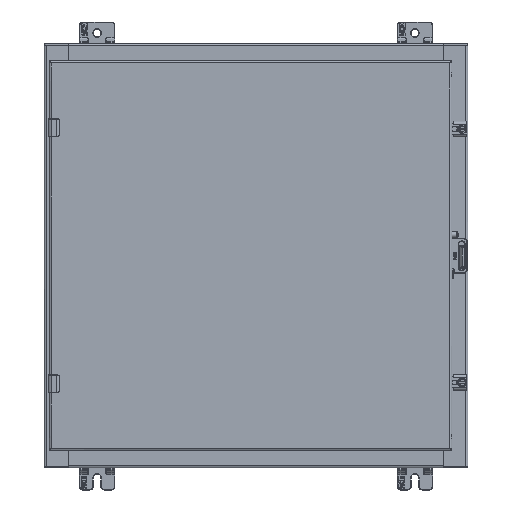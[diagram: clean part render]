
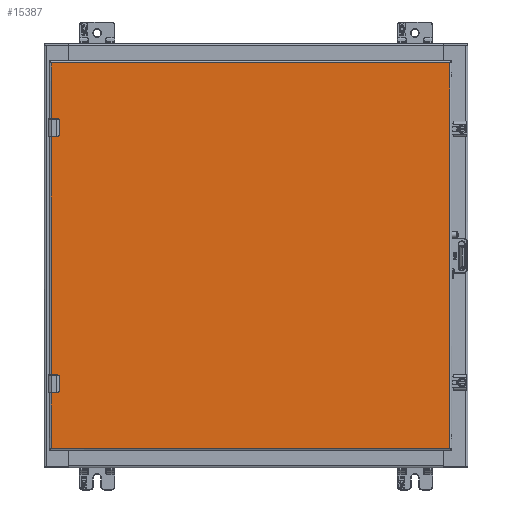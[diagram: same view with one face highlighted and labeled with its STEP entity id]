
A CAD part, top view. The second image highlights one B-rep face of the part: STEP entity #15387.
In plain terms, the highlighted planar face has unit normal (0, 0, 1) as drawn and (0, 1, 0) by its records, which use the part's own axes.
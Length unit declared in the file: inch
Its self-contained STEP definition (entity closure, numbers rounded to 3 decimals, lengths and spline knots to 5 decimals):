
#11832=DIRECTION('',(0.,0.,1.));
#11833=VECTOR('',#11832,22.566);
#11834=CARTESIAN_POINT('',(-10.91438,0.,0.117));
#11835=LINE('',#11834,#11833);
#11920=DIRECTION('',(0.,0.,-1.));
#11921=VECTOR('',#11920,0.3629);
#11922=CARTESIAN_POINT('',(7.59513,0.,22.683));
#11923=LINE('',#11922,#11921);
#11927=DIRECTION('',(-1.,0.,0.));
#11928=VECTOR('',#11927,0.63);
#11929=CARTESIAN_POINT('',(7.56513,0.,22.2901));
#11930=LINE('',#11929,#11928);
#11934=DIRECTION('',(0.,0.,-1.));
#11935=VECTOR('',#11934,0.3629);
#11936=CARTESIAN_POINT('',(6.90513,0.,22.683));
#11937=LINE('',#11936,#11935);
#11941=DIRECTION('',(0.,0.,-1.));
#11942=VECTOR('',#11941,0.3629);
#11943=CARTESIAN_POINT('',(-6.90513,0.,22.683));
#11944=LINE('',#11943,#11942);
#11948=DIRECTION('',(-1.,0.,0.));
#11949=VECTOR('',#11948,0.63);
#11950=CARTESIAN_POINT('',(-6.93513,0.,22.2901));
#11951=LINE('',#11950,#11949);
#11955=DIRECTION('',(0.,0.,-1.));
#11956=VECTOR('',#11955,0.3629);
#11957=CARTESIAN_POINT('',(-7.59513,0.,22.683));
#11958=LINE('',#11957,#11956);
#11962=DIRECTION('',(0.,0.,1.));
#11963=VECTOR('',#11962,22.566);
#11964=CARTESIAN_POINT('',(10.91438,0.,0.117));
#11965=LINE('',#11964,#11963);
#12151=DIRECTION('',(-1.,0.,0.));
#12152=VECTOR('',#12151,21.82875);
#12153=CARTESIAN_POINT('',(10.91438,0.,0.117));
#12154=LINE('',#12153,#12152);
#13006=CARTESIAN_POINT('',(6.93513,0.,22.3201));
#13007=DIRECTION('',(0.,-1.,0.));
#13008=DIRECTION('',(-1.,0.,0.));
#13009=AXIS2_PLACEMENT_3D('',#13006,#13007,#13008);
#13036=CARTESIAN_POINT('',(7.56513,0.,22.3201));
#13037=DIRECTION('',(0.,-1.,0.));
#13038=DIRECTION('',(0.,0.,-1.));
#13039=AXIS2_PLACEMENT_3D('',#13036,#13037,#13038);
#13445=DIRECTION('',(-1.,0.,0.));
#13446=VECTOR('',#13445,13.81025);
#13447=CARTESIAN_POINT('',(6.90513,0.,22.683));
#13448=LINE('',#13447,#13446);
#13492=DIRECTION('',(-1.,0.,0.));
#13493=VECTOR('',#13492,3.31925);
#13494=CARTESIAN_POINT('',(-7.59513,0.,22.683));
#13495=LINE('',#13494,#13493);
#13529=DIRECTION('',(-1.,0.,0.));
#13530=VECTOR('',#13529,3.31925);
#13531=CARTESIAN_POINT('',(10.91438,0.,22.683));
#13532=LINE('',#13531,#13530);
#13610=CARTESIAN_POINT('',(-7.56513,0.,22.3201));
#13611=DIRECTION('',(0.,-1.,0.));
#13612=DIRECTION('',(-1.,0.,0.));
#13613=AXIS2_PLACEMENT_3D('',#13610,#13611,#13612);
#13640=CARTESIAN_POINT('',(-6.93513,0.,22.3201));
#13641=DIRECTION('',(0.,-1.,0.));
#13642=DIRECTION('',(0.,0.,-1.));
#13643=AXIS2_PLACEMENT_3D('',#13640,#13641,#13642);
#14482=CARTESIAN_POINT('',(10.91438,0.,0.117));
#14483=CARTESIAN_POINT('',(-10.91438,0.,0.117));
#14484=VERTEX_POINT('',#14482);
#14485=VERTEX_POINT('',#14483);
#14692=CARTESIAN_POINT('',(-10.91438,0.,22.683));
#14693=VERTEX_POINT('',#14692);
#14702=CARTESIAN_POINT('',(10.91438,0.,22.683));
#14704=VERTEX_POINT('',#14702);
#14799=CARTESIAN_POINT('',(-6.90513,0.,22.683));
#14801=VERTEX_POINT('',#14799);
#14803=CARTESIAN_POINT('',(-7.59513,0.,22.683));
#14805=VERTEX_POINT('',#14803);
#14815=CARTESIAN_POINT('',(7.59513,0.,22.683));
#14817=VERTEX_POINT('',#14815);
#14819=CARTESIAN_POINT('',(6.90513,0.,22.683));
#14821=VERTEX_POINT('',#14819);
#14830=CARTESIAN_POINT('',(-7.59513,0.,22.3201));
#14832=VERTEX_POINT('',#14830);
#14834=CARTESIAN_POINT('',(-7.56513,0.,22.2901));
#14836=VERTEX_POINT('',#14834);
#14854=CARTESIAN_POINT('',(-6.93513,0.,22.2901));
#14856=VERTEX_POINT('',#14854);
#14858=CARTESIAN_POINT('',(-6.90513,0.,22.3201));
#14860=VERTEX_POINT('',#14858);
#14862=CARTESIAN_POINT('',(6.90513,0.,22.3201));
#14864=VERTEX_POINT('',#14862);
#14866=CARTESIAN_POINT('',(6.93513,0.,22.2901));
#14868=VERTEX_POINT('',#14866);
#14886=CARTESIAN_POINT('',(7.56513,0.,22.2901));
#14888=VERTEX_POINT('',#14886);
#14890=CARTESIAN_POINT('',(7.59513,0.,22.3201));
#14892=VERTEX_POINT('',#14890);
#15349=CARTESIAN_POINT('',(11.03138,0.,0.));
#15350=DIRECTION('',(0.,1.,0.));
#15351=DIRECTION('',(-1.,0.,0.));
#15352=AXIS2_PLACEMENT_3D('',#15349,#15350,#15351);
#15353=PLANE('',#15352);
#15355=ORIENTED_EDGE('',*,*,#15354,.T.);
#15357=ORIENTED_EDGE('',*,*,#15356,.T.);
#15359=ORIENTED_EDGE('',*,*,#15358,.T.);
#15361=ORIENTED_EDGE('',*,*,#15360,.F.);
#15363=ORIENTED_EDGE('',*,*,#15362,.T.);
#15365=ORIENTED_EDGE('',*,*,#15364,.F.);
#15367=ORIENTED_EDGE('',*,*,#15366,.F.);
#15369=ORIENTED_EDGE('',*,*,#15368,.T.);
#15371=ORIENTED_EDGE('',*,*,#15370,.T.);
#15373=ORIENTED_EDGE('',*,*,#15372,.F.);
#15375=ORIENTED_EDGE('',*,*,#15374,.T.);
#15377=ORIENTED_EDGE('',*,*,#15376,.F.);
#15379=ORIENTED_EDGE('',*,*,#15378,.F.);
#15381=ORIENTED_EDGE('',*,*,#15380,.T.);
#15382=ORIENTED_EDGE('',*,*,#15339,.F.);
#15384=ORIENTED_EDGE('',*,*,#15383,.F.);
#15385=EDGE_LOOP('',(#15355,#15357,#15359,#15361,#15363,#15365,#15367,#15369,
#15371,#15373,#15375,#15377,#15379,#15381,#15382,#15384));
#15386=FACE_OUTER_BOUND('',#15385,.F.);
#13010=CIRCLE('',#13009,0.03);
#13040=CIRCLE('',#13039,0.03);
#13614=CIRCLE('',#13613,0.03);
#13644=CIRCLE('',#13643,0.03);
#15339=EDGE_CURVE('',#14485,#14693,#11835,.T.);
#15354=EDGE_CURVE('',#14484,#14704,#11965,.T.);
#15356=EDGE_CURVE('',#14704,#14817,#13532,.T.);
#15358=EDGE_CURVE('',#14817,#14892,#11923,.T.);
#15360=EDGE_CURVE('',#14888,#14892,#13040,.T.);
#15362=EDGE_CURVE('',#14888,#14868,#11930,.T.);
#15364=EDGE_CURVE('',#14864,#14868,#13010,.T.);
#15366=EDGE_CURVE('',#14821,#14864,#11937,.T.);
#15368=EDGE_CURVE('',#14821,#14801,#13448,.T.);
#15370=EDGE_CURVE('',#14801,#14860,#11944,.T.);
#15372=EDGE_CURVE('',#14856,#14860,#13644,.T.);
#15374=EDGE_CURVE('',#14856,#14836,#11951,.T.);
#15376=EDGE_CURVE('',#14832,#14836,#13614,.T.);
#15378=EDGE_CURVE('',#14805,#14832,#11958,.T.);
#15380=EDGE_CURVE('',#14805,#14693,#13495,.T.);
#15383=EDGE_CURVE('',#14484,#14485,#12154,.T.);
#15387=ADVANCED_FACE('',(#15386),#15353,.T.);
